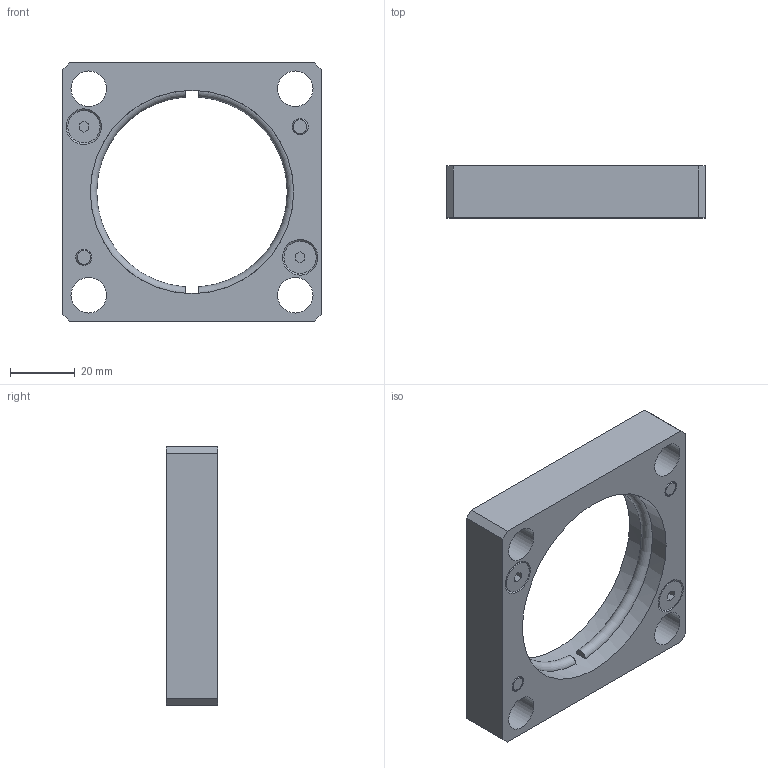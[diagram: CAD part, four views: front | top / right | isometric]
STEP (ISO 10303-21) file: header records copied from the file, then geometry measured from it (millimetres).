
FILE_DESCRIPTION(/* description */ (''),/* implementation_level */ '2;1');
FILE_NAME(/* name */ 'C:\Users\Jefferson\Desktop\Biblioteca Pro Nitro 2024 - Inventor\Flanges\PNB-65-XXX\PNB-65-063-ISO.stp',/* time_stamp */ '2024-12-30T16:15:07-03:00',/* author */ ('Jefferson'),/* organization */ (''),/* preprocessor_version */ 'ST-DEVELOPER v19',/* originating_system */ 'Autodesk Inventor 2023',/* authorisation */ '');
FILE_SCHEMA (('AUTOMOTIVE_DESIGN { 1 0 10303 214 3 1 1 }'));
Length unit declared in the file: millimetre
Products named in the file (3): PNB-65-063-ISO; PNB-65-063-VDI; DIN 7991 - M5x16
Assembly tree (5 placements, depth 2):
  PNB-65-063-ISO
    PNB-65-063-VDI
    DIN 7991 - M5x16  x4
Bounding box: 80 x 16 x 80 mm (x, y, z)
Volume: 47328.6 mm3; surface area: 19100.7 mm2
Topology: 5 solids, 5 shells, 302 faces, 792 edges, 526 vertices
Faces by surface type: plane 155, bspline 112, cylinder 17, cone 12, torus 6
Full cylindrical faces by diameter (mm): 5 x8, 10 x4, 11 x4, 63 x1
Entity records: 8902 total; most frequent: CARTESIAN_POINT 2951, ORIENTED_EDGE 1392, DIRECTION 820, EDGE_CURVE 696, VERTEX_POINT 463, LINE 428, VECTOR 428, EDGE_LOOP 301
